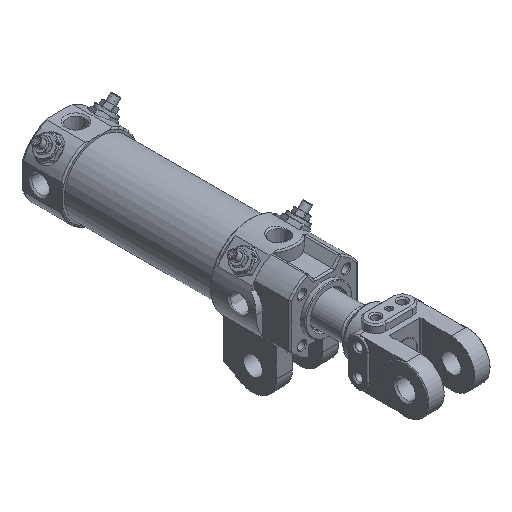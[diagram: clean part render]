
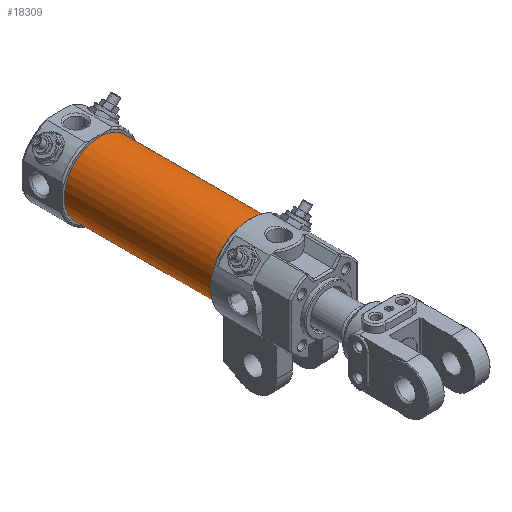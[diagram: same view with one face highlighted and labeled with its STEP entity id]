
A CAD part, isometric view. The second image highlights one B-rep face of the part: STEP entity #18309.
In plain terms, the highlighted cylindrical face has radius 22.5 mm (diameter 45 mm), a full revolution.
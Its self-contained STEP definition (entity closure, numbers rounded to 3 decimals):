
#12988=CARTESIAN_POINT('',(22.5,146.5,0.));
#12989=VERTEX_POINT('',#12988);
#12990=CARTESIAN_POINT('',(0.0,146.5,0.0));
#12991=DIRECTION('',(0.0,-1.0,0.0));
#12992=DIRECTION('',(-1.0,0.0,0.0));
#12993=AXIS2_PLACEMENT_3D('',#12990,#12991,#12992);
#12994=CIRCLE('',#12993,22.5);
#12995=EDGE_CURVE('',#12989,#12989,#12994,.T.);
#18286=CARTESIAN_POINT('',(22.5,50.5,0.));
#18287=VERTEX_POINT('',#18286);
#18288=CARTESIAN_POINT('',(0.0,50.5,0.0));
#18289=DIRECTION('',(0.0,-1.0,0.0));
#18290=DIRECTION('',(-1.0,0.0,0.0));
#18291=AXIS2_PLACEMENT_3D('',#18288,#18289,#18290);
#18292=CIRCLE('',#18291,22.5);
#18293=EDGE_CURVE('',#18287,#18287,#18292,.T.);
#18298=CARTESIAN_POINT('',(0.0,50.5,0.0));
#18299=DIRECTION('',(0.0,1.0,0.0));
#18300=DIRECTION('',(-1.0,0.0,0.0));
#18301=AXIS2_PLACEMENT_3D('',#18298,#18299,#18300);
#18302=CYLINDRICAL_SURFACE('',#18301,22.5);
#18303=ORIENTED_EDGE('',*,*,#12995,.T.);
#18304=EDGE_LOOP('',(#18303));
#18305=FACE_OUTER_BOUND('',#18304,.T.);
#18306=ORIENTED_EDGE('',*,*,#18293,.F.);
#18307=EDGE_LOOP('',(#18306));
#18308=FACE_BOUND('',#18307,.T.);
#18309=ADVANCED_FACE('',(#18305,#18308),#18302,.T.);
